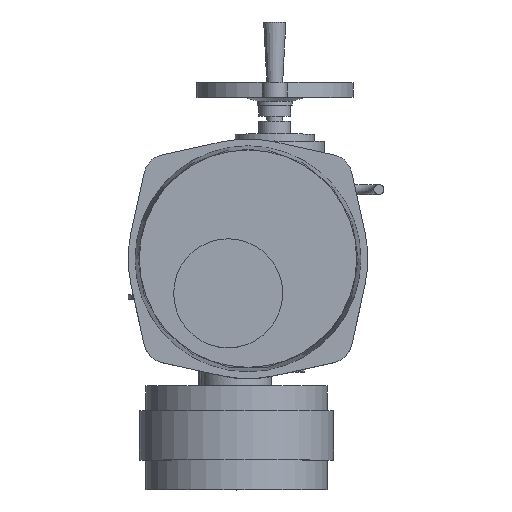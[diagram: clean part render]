
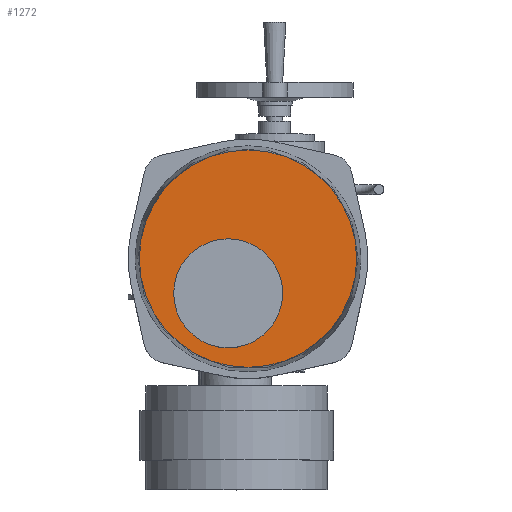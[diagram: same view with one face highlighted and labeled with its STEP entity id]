
A CAD part, top view. The second image highlights one B-rep face of the part: STEP entity #1272.
In plain terms, the highlighted planar face has unit normal (0, 0, 1).
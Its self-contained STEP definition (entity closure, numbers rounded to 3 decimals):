
#1272=ADVANCED_FACE('',(#2809,#2811),#2813,.T.);
#2809=FACE_BOUND('',#2810,.T.);
#2810=EDGE_LOOP('',(#3823));
#2811=FACE_BOUND('',#2812,.T.);
#2812=EDGE_LOOP('',(#3824));
#2813=PLANE('',#2814);
#2814=AXIS2_PLACEMENT_3D('',#2815,#2816,#2817);
#2815=CARTESIAN_POINT('',(20.,38.,519.));
#2816=DIRECTION('',(0.,0.,1.));
#2817=DIRECTION('',(-1.,0.,0.));
#3823=ORIENTED_EDGE('',*,*,#4304,.T.);
#3824=ORIENTED_EDGE('',*,*,#4343,.F.);
#4304=EDGE_CURVE('',#4915,#4915,#4916,.T.);
#4343=EDGE_CURVE('',#4973,#4973,#4974,.T.);
#4915=VERTEX_POINT('',#7917);
#4916=CIRCLE('',#7918,109.703);
#4973=VERTEX_POINT('',#8067);
#4974=CIRCLE('',#8068,55.);
#7917=CARTESIAN_POINT('',(-89.703,38.,519.));
#7918=AXIS2_PLACEMENT_3D('',#7919,#7920,#7921);
#7919=CARTESIAN_POINT('',(20.,38.,519.));
#7920=DIRECTION('',(0.,0.,1.));
#7921=DIRECTION('',(-1.,0.,0.));
#8067=CARTESIAN_POINT('',(-55.,3.,519.));
#8068=AXIS2_PLACEMENT_3D('',#8069,#8070,#8071);
#8069=CARTESIAN_POINT('',(0.,3.,519.));
#8070=DIRECTION('',(0.,0.,1.));
#8071=DIRECTION('',(-1.,0.,0.));
